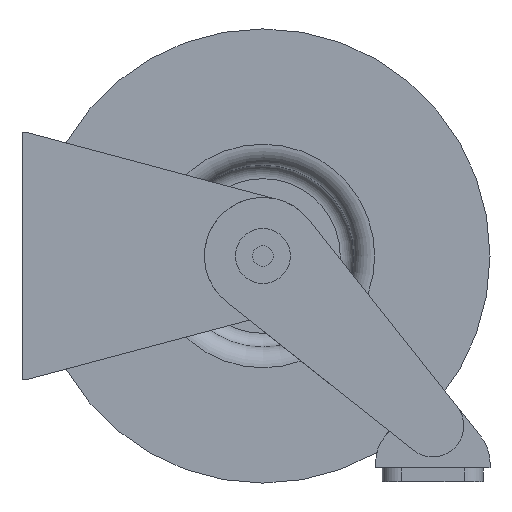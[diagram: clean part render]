
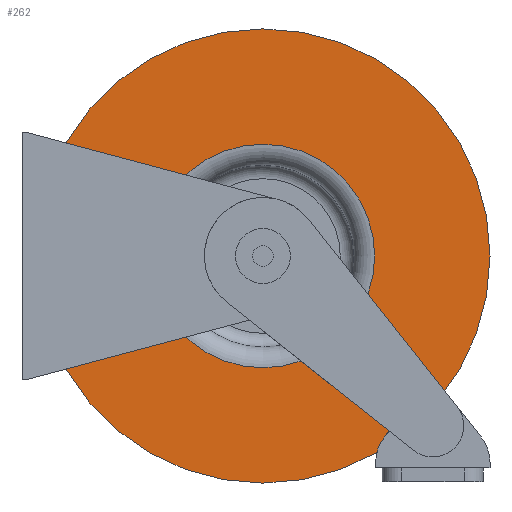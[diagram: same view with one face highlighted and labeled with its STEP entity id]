
A CAD part, front view. The second image highlights one B-rep face of the part: STEP entity #262.
In plain terms, the highlighted planar face has unit normal (0, -1, 0).
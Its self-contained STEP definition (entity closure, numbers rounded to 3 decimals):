
#262 = ADVANCED_FACE( '', ( #610, #611 ), #612, .T. );
#610 = FACE_OUTER_BOUND( '', #1033, .T. );
#611 = FACE_BOUND( '', #1034, .T. );
#612 = PLANE( '', #1035 );
#1033 = EDGE_LOOP( '', ( #1730 ) );
#1034 = EDGE_LOOP( '', ( #1731 ) );
#1035 = AXIS2_PLACEMENT_3D( '', #1732, #1733, #1734 );
#1730 = ORIENTED_EDGE( '', *, *, #2248, .T. );
#1731 = ORIENTED_EDGE( '', *, *, #2467, .F. );
#1732 = CARTESIAN_POINT( '', ( 0., -76.2, 103.124 ) );
#1733 = DIRECTION( '', ( 0., -1., 0. ) );
#1734 = DIRECTION( '', ( 0., 0., -1. ) );
#2248 = EDGE_CURVE( '', #2638, #2638, #2639, .T. );
#2467 = EDGE_CURVE( '', #2989, #2989, #2990, .T. );
#2638 = VERTEX_POINT( '', #3195 );
#2639 = CIRCLE( '', #3196, 209.55 );
#2989 = VERTEX_POINT( '', #3656 );
#2990 = CIRCLE( '', #3657, 103.124 );
#3195 = CARTESIAN_POINT( '', ( 0., -76.2, -209.55 ) );
#3196 = AXIS2_PLACEMENT_3D( '', #3906, #3907, #3908 );
#3656 = CARTESIAN_POINT( '', ( 0., -76.2, -103.124 ) );
#3657 = AXIS2_PLACEMENT_3D( '', #4193, #4194, #4195 );
#3906 = CARTESIAN_POINT( '', ( 0., -76.2, 0. ) );
#3907 = DIRECTION( '', ( 0., -1., 0. ) );
#3908 = DIRECTION( '', ( 0., 0., -1. ) );
#4193 = CARTESIAN_POINT( '', ( 0., -76.2, 0. ) );
#4194 = DIRECTION( '', ( 0., -1., 0. ) );
#4195 = DIRECTION( '', ( 0., 0., -1. ) );
